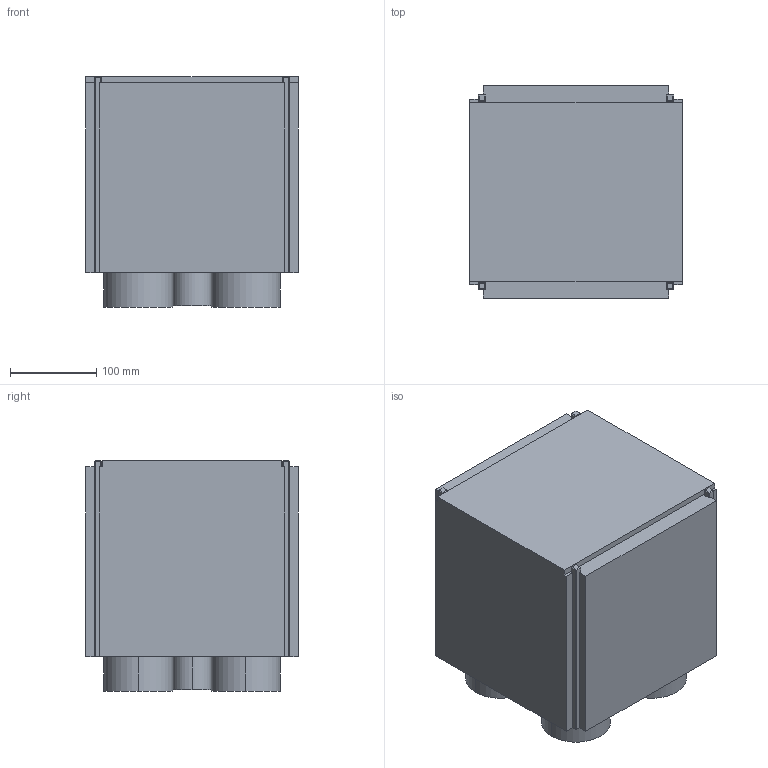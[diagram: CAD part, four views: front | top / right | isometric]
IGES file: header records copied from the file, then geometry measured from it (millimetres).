
Start section:  PTC IGES file: C:\Users\gleb\z) Windows folders\Desktop\1) ISIPOD Fligh t Model\4) CubeSat_Dims\160916_Updated_CubeSat_ISIS_Advised_Max_Dimensio ns\160916_RevC_8U_CubeSat_ISIS_Advised_Max_Dimensions.igs
Global section: file name: C:\Users\gleb\z) Windows folders\Desktop\1) ISIPOD Flight Model\4) CubeSat_Dims\160916_Updated_CubeSat_ISIS_Advised_Max_Dimensions\160916_RevC_8U_CubeSat_ISIS_Advised_Max_Dimensions.igs; native system: gleb by Parametric Technology Corporation; preprocessor: 2003250; author: Unknown; organization: PTC; date: 160916.095237; units: millimetre
Bounding box: 246.3 x 246.3 x 267 mm (x, y, z)
Volume: 14377179.7 mm3; surface area: 388548.4 mm2
Topology: 1 solids, 1 shells, 85 faces, 234 edges, 156 vertices
Faces by surface type: bspline 75, revolution 10
